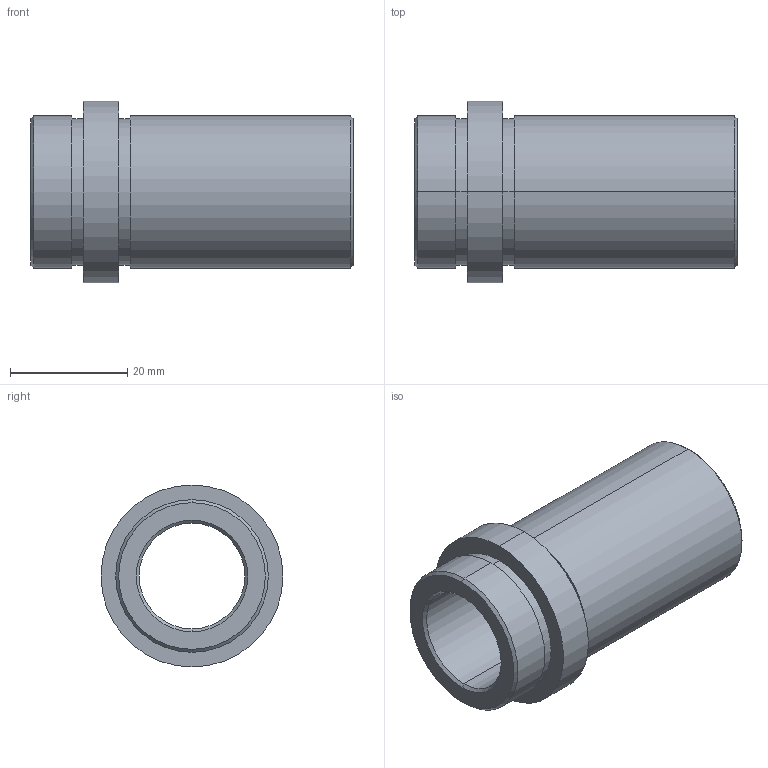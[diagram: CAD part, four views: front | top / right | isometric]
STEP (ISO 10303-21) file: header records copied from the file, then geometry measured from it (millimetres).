
FILE_DESCRIPTION( ( 'STEP AP203' ), '1' );
FILE_NAME( 'D:/Delta 3 D/D21/D21 - 18x46.step', '2002-12-31T22:35:39', ( ' ' ), ( ' ' ), 'XStep 1.0', ' ', ' ' );
FILE_SCHEMA( ( 'CONFIG_CONTROL_DESIGN' ) );
Length unit declared in the file: metre
Products named in the file (1): 1
Bounding box: 55 x 31 x 31 mm (x, y, z)
Volume: 16353.6 mm3; surface area: 8764.2 mm2
Topology: 1 solids, 1 shells, 26 faces, 52 edges, 32 vertices
Faces by surface type: revolution 20, bspline 6
Entity records: 773 total; most frequent: CARTESIAN_POINT 169, DIRECTION 106, ORIENTED_EDGE 104, EDGE_CURVE 52, AXIS2_PLACEMENT_3D 33, EDGE_LOOP 32, VERTEX_POINT 32, CIRCLE 32
